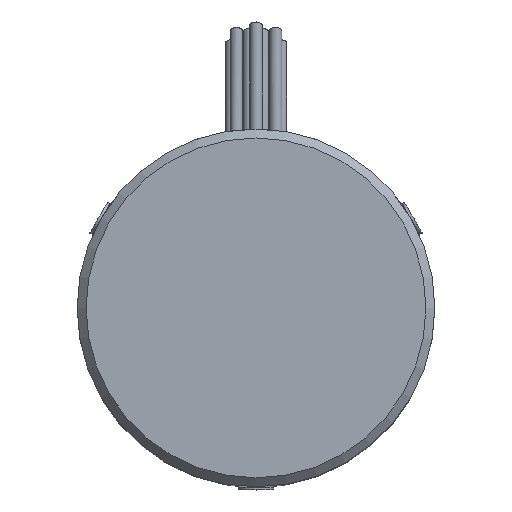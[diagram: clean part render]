
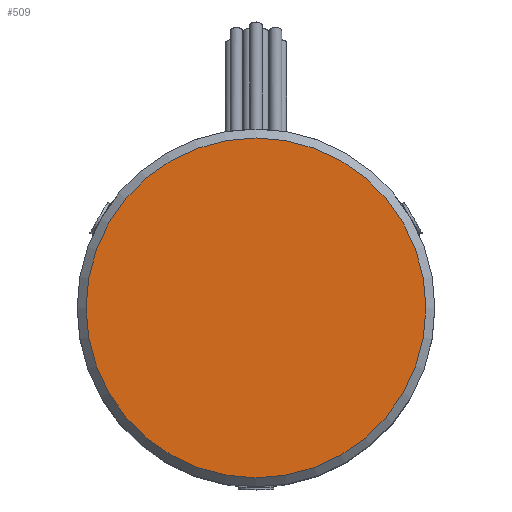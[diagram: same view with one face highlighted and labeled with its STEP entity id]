
A CAD part, top view. The second image highlights one B-rep face of the part: STEP entity #509.
In plain terms, the highlighted planar face has unit normal (0, 0, 1).
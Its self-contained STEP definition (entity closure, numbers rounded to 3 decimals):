
#509=ADVANCED_FACE('',(#947),#948,.T.);
#947=FACE_OUTER_BOUND('',#1470,.T.);
#948=PLANE('',#1471);
#1470=EDGE_LOOP('',(#2088));
#1471=AXIS2_PLACEMENT_3D('',#2089,#2090,#2091);
#2088=ORIENTED_EDGE('',*,*,#2468,.T.);
#2089=CARTESIAN_POINT('',(0.,0.,21.0));
#2090=DIRECTION('',(0.,0.,1.0));
#2091=DIRECTION('',(-1.0,0.,0.));
#2468=EDGE_CURVE('',#2810,#2810,#2811,.T.);
#2810=VERTEX_POINT('',#3496);
#2811=CIRCLE('',#3497,9.5);
#3496=CARTESIAN_POINT('',(-9.5,0.,21.0));
#3497=AXIS2_PLACEMENT_3D('',#3935,#3936,#3937);
#3935=CARTESIAN_POINT('',(0.,0.,21.0));
#3936=DIRECTION('',(0.,0.,1.0));
#3937=DIRECTION('',(-1.0,0.,0.));
